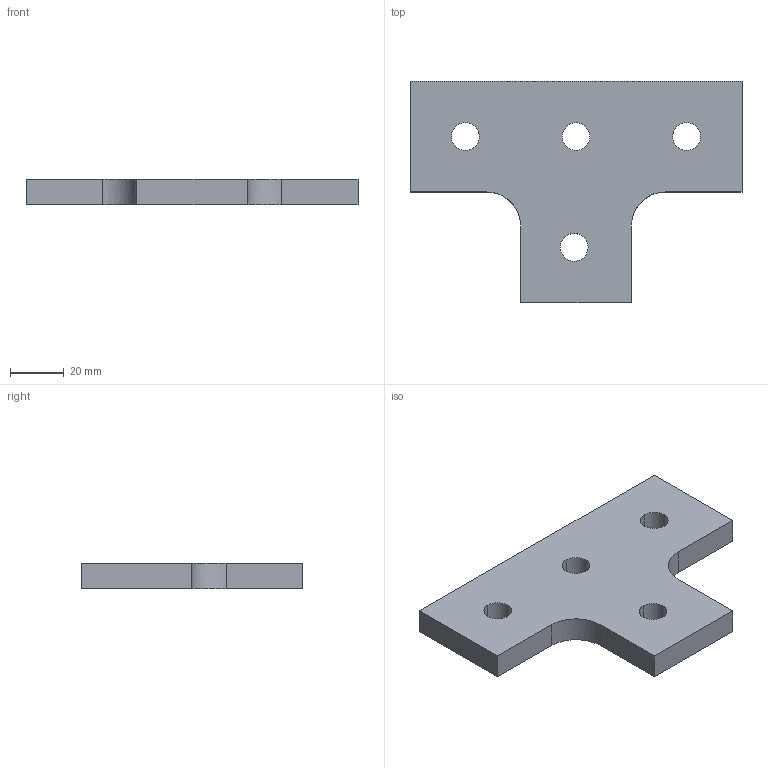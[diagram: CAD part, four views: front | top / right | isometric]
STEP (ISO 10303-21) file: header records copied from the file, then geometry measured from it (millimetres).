
FILE_DESCRIPTION(('TurboCAD Mac Pro'),'Build 980');
FILE_NAME('F20P-2512.stp',' ',(''),(''),'ACIS Interop','IMSI','TurboCAD Mac Pro BY IMSI, INCORPORATED');
FILE_SCHEMA(('automotive_design'));
Length unit declared in the file: inch
Products named in the file (1): 1
Bounding box: 123.83 x 82.56 x 9.53 mm (x, y, z)
Volume: 62386.4 mm3; surface area: 18162.4 mm2
Topology: 1 solids, 1 shells, 28 faces, 78 edges, 52 vertices
Faces by surface type: bspline 18, plane 10
Entity records: 1254 total; most frequent: CARTESIAN_POINT 393, ORIENTED_EDGE 156, EDGE_CURVE 78, DIRECTION 64, VERTEX_POINT 52, LINE 42, VECTOR 42, EDGE_LOOP 36
